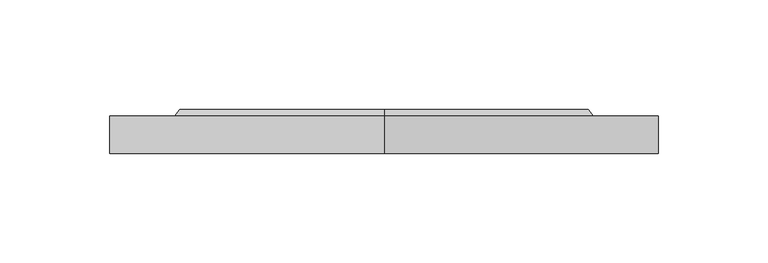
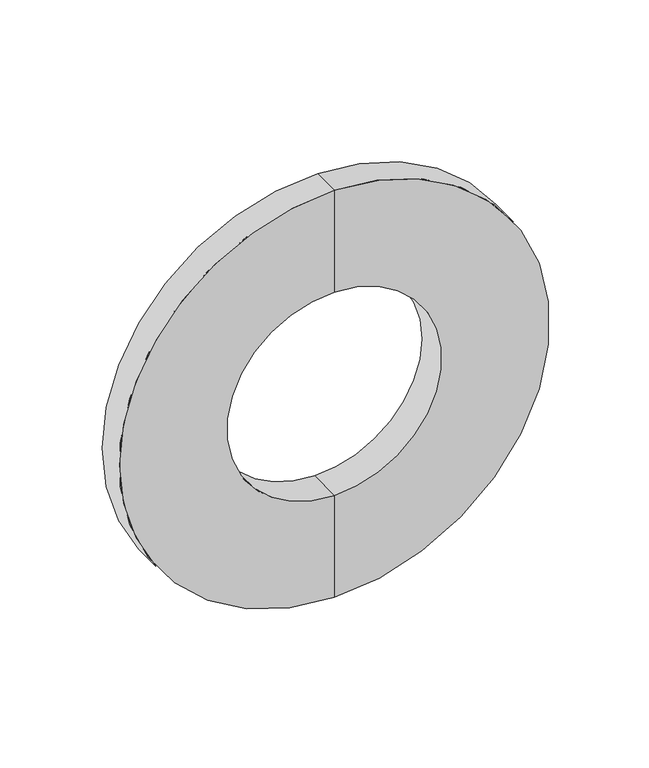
"""IFC4 building model written with IfcOpenShell, lengths in millimetres: pipe fitting geometry, Фланец : Фланец."""

from ifc_helpers import new_model, si_unit, frame, origin, place, context, project, spatial, polyline, circle_curve, source, transform, mapped, element, save
from ifc_brep_helpers import plane_surface, cylinder_surface, revolved_surface, advanced_brep


def pipe_fitting_4f8dd1ce(model_context):
    return source(origin(), model_context, "Body", "AdvancedBrep", [
        advanced_brep(
        [(0.0, 0.0, -125.0), (0.0, 0.0, 125.0), (0.0, 17.0, 125.0), (0.0, 17.0, -125.0), (0.0, 0.0, -62.5), (0.0, 0.0, 62.5), (0.0, 20.0, -62.5), (0.0, 20.0, 62.5), (0.0, 20.0, -93.5), (0.0, 20.0, 93.5), (0.0, 17.0, -96.0), (0.0, 17.0, 96.0)],
        [
            (0, 1, circle_curve(frame((0.0, 0.0, 0.0), z_axis=(0.0, 1.0, 0.0), x_axis=(0.0, 0.0, 1.0)), 125.0)),
            (1, 2),
            (2, 3, circle_curve(frame((0.0, 17.0, 0.0), z_axis=(0.0, -1.0, 0.0), x_axis=(0.0, 0.0, 1.0)), 125.0)),
            (3, 0),
            (1, 0, circle_curve(frame((0.0, 0.0, 0.0), z_axis=(0.0, 1.0, 0.0), x_axis=(0.0, 0.0, 1.0)), 125.0)),
            (3, 2, circle_curve(frame((0.0, 17.0, 0.0), z_axis=(0.0, -1.0, 0.0), x_axis=(0.0, 0.0, 1.0)), 125.0)),
            (4, 5, circle_curve(frame((0.0, 0.0, 0.0), z_axis=(0.0, 1.0, 0.0), x_axis=(0.0, 0.0, 1.0)), 62.5)),
            (5, 1),
            (0, 4),
            (5, 4, circle_curve(frame((0.0, 0.0, 0.0), z_axis=(0.0, 1.0, 0.0), x_axis=(0.0, 0.0, 1.0)), 62.5)),
            (6, 7, circle_curve(frame((0.0, 20.0, 0.0), z_axis=(0.0, 1.0, 0.0), x_axis=(0.0, 0.0, 1.0)), 62.5)),
            (7, 5),
            (4, 6),
            (7, 6, circle_curve(frame((0.0, 20.0, 0.0), z_axis=(0.0, 1.0, 0.0), x_axis=(0.0, 0.0, 1.0)), 62.5)),
            (8, 9, circle_curve(frame((0.0, 20.0, 0.0), z_axis=(0.0, 1.0, 0.0), x_axis=(0.0, 0.0, 1.0)), 93.5)),
            (9, 7),
            (6, 8),
            (9, 8, circle_curve(frame((0.0, 20.0, 0.0), z_axis=(0.0, 1.0, 0.0), x_axis=(0.0, 0.0, 1.0)), 93.5)),
            (10, 11, circle_curve(frame((0.0, 17.0, 0.0), z_axis=(0.0, 1.0, 0.0), x_axis=(0.0, 0.0, 1.0)), 96.0)),
            (11, 9),
            (8, 10),
            (11, 10, circle_curve(frame((0.0, 17.0, 0.0), z_axis=(0.0, 1.0, 0.0), x_axis=(0.0, 0.0, 1.0)), 96.0)),
            (2, 11),
            (10, 3),
        ],
        [
            cylinder_surface(frame((0.0, -60.0, 0.0), z_axis=(0.0, -1.0, 0.0), x_axis=(0.0, 0.0, 1.0)), 125.0),
            plane_surface(frame((0.0, 0.0, 0.0), z_axis=(0.0, -1.0, 0.0), x_axis=(0.0, 0.0, 1.0))),
            revolved_surface(polyline([(0.0, 0.0, 62.5), (0.0, 20.0, 62.5)]), (0.0, -60.0, 0.0), (0.0, -1.0, 0.0)),
            plane_surface(frame((0.0, 20.0, 0.0), z_axis=(0.0, 1.0, 0.0), x_axis=(0.0, 0.0, 1.0))),
            revolved_surface(polyline([(0.0, 20.0, 93.5), (0.0, 17.0, 96.0)]), (0.0, -60.0, 0.0), (0.0, -1.0, 0.0)),
            plane_surface(frame((0.0, 17.0, 0.0), z_axis=(0.0, 1.0, 0.0), x_axis=(0.0, 0.0, 1.0))),
        ],
        [
            (0, [[1, 2, 3, 4]]),
            (0, [[5, -4, 6, -2]]),
            (1, [[7, 8, -1, 9]]),
            (1, [[10, -9, -5, -8]]),
            (2, [[11, 12, -7, 13]]),
            (2, [[14, -13, -10, -12]]),
            (3, [[15, 16, -11, 17]]),
            (3, [[18, -17, -14, -16]]),
            (4, [[19, 20, -15, 21]]),
            (4, [[22, -21, -18, -20]]),
            (5, [[-3, 23, -19, 24]]),
            (5, [[-6, -24, -22, -23]]),
        ],
    ),
    ])


if __name__ == "__main__":
    model = new_model("IFC4")
    model_context = context("Model", 3, world=origin())
    ifc_project = project(units=[si_unit("LENGTHUNIT", "METRE", prefix="MILLI")], contexts=[model_context])
    site = spatial("IfcSite", under=ifc_project)
    building = spatial("IfcBuilding", under=site)
    placement = place(None, origin())
    pipe_fitting_shape = pipe_fitting_4f8dd1ce(model_context)
    element("IfcPipeFitting", 1, ObjectType="Фланец : Фланец", at=placement, inside=building, context=model_context, shape_type="MappedRepresentation", body=[
        mapped(pipe_fitting_shape, transform((0.0, 0.0, 0.0), x_axis=(1.0, 0.0, 0.0), y_axis=(0.0, 1.0, 0.0), z_axis=(0.0, 0.0, 1.0))),
    ])
    save(model, "model.ifc")
